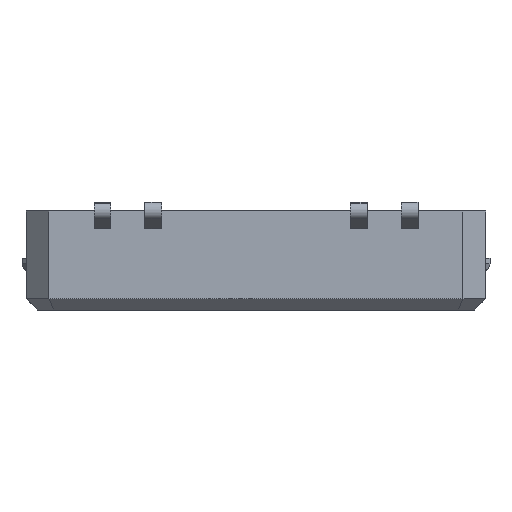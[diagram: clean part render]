
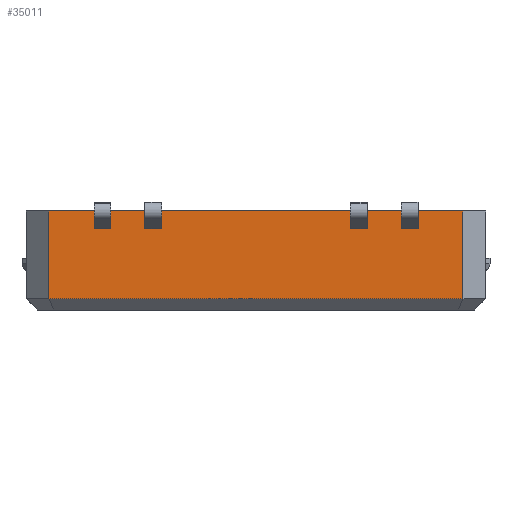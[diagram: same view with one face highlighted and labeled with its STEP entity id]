
A CAD part, front view. The second image highlights one B-rep face of the part: STEP entity #35011.
In plain terms, the highlighted planar face has unit normal (0, -1, 0).
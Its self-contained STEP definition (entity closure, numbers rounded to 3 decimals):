
#1650=FACE_OUTER_BOUND($,#3627,.T.);
#3627=EDGE_LOOP($,(#27391,#27392,#27393,#27394,#27395,#27396,#27397,#27398,
#27399,#27400,#27401,#27402,#27403,#27404,#27405,#27406,#27407,#27408,#27409,
#27410));
#4617=LINE($,#46001,#9317);
#4622=LINE($,#46020,#9322);
#4623=LINE($,#46025,#9323);
#4624=LINE($,#46034,#9324);
#4631=LINE($,#46054,#9331);
#4633=LINE($,#46059,#9333);
#4643=LINE($,#46085,#9343);
#4648=LINE($,#46104,#9348);
#4649=LINE($,#46109,#9349);
#4650=LINE($,#46118,#9350);
#4657=LINE($,#46138,#9357);
#4659=LINE($,#46143,#9359);
#5217=LINE($,#51165,#9917);
#7016=LINE($,#54824,#11716);
#7017=LINE($,#54825,#11717);
#7018=LINE($,#54827,#11718);
#7019=LINE($,#54828,#11719);
#7020=LINE($,#54829,#11720);
#7021=LINE($,#54830,#11721);
#7022=LINE($,#54831,#11722);
#9317=VECTOR($,#37719,0.75);
#9322=VECTOR($,#37742,0.8);
#9323=VECTOR($,#37749,0.8);
#9324=VECTOR($,#37758,0.8);
#9331=VECTOR($,#37777,0.8);
#9333=VECTOR($,#37783,0.75);
#9343=VECTOR($,#37805,0.75);
#9348=VECTOR($,#37828,0.8);
#9349=VECTOR($,#37835,0.8);
#9350=VECTOR($,#37844,0.8);
#9357=VECTOR($,#37863,0.8);
#9359=VECTOR($,#37869,0.75);
#9917=VECTOR($,#38659,18.4);
#11716=VECTOR($,#41888,2.);
#11717=VECTOR($,#41889,3.9);
#11718=VECTOR($,#41890,3.9);
#11719=VECTOR($,#41891,2.);
#11720=VECTOR($,#41892,1.5);
#11721=VECTOR($,#41893,8.4);
#11722=VECTOR($,#41894,1.5);
#14017=VERTEX_POINT($,#45997);
#14018=VERTEX_POINT($,#45999);
#14021=VERTEX_POINT($,#46012);
#14022=VERTEX_POINT($,#46014);
#14027=VERTEX_POINT($,#46032);
#14028=VERTEX_POINT($,#46033);
#14032=VERTEX_POINT($,#46043);
#14035=VERTEX_POINT($,#46053);
#14045=VERTEX_POINT($,#46081);
#14046=VERTEX_POINT($,#46083);
#14049=VERTEX_POINT($,#46096);
#14050=VERTEX_POINT($,#46098);
#14055=VERTEX_POINT($,#46116);
#14056=VERTEX_POINT($,#46117);
#14060=VERTEX_POINT($,#46127);
#14063=VERTEX_POINT($,#46137);
#14661=VERTEX_POINT($,#51162);
#14662=VERTEX_POINT($,#51164);
#15807=VERTEX_POINT($,#54823);
#15808=VERTEX_POINT($,#54826);
#17321=EDGE_CURVE($,#14017,#14018,#4617,.T.);
#17331=EDGE_CURVE($,#14022,#14017,#4622,.T.);
#17333=EDGE_CURVE($,#14018,#14021,#4623,.T.);
#17336=EDGE_CURVE($,#14027,#14028,#4624,.T.);
#17346=EDGE_CURVE($,#14035,#14032,#4631,.T.);
#17349=EDGE_CURVE($,#14028,#14035,#4633,.T.);
#17361=EDGE_CURVE($,#14045,#14046,#4643,.T.);
#17371=EDGE_CURVE($,#14050,#14045,#4648,.T.);
#17373=EDGE_CURVE($,#14046,#14049,#4649,.T.);
#17376=EDGE_CURVE($,#14055,#14056,#4650,.T.);
#17386=EDGE_CURVE($,#14063,#14060,#4657,.T.);
#17389=EDGE_CURVE($,#14056,#14063,#4659,.T.);
#18197=EDGE_CURVE($,#14661,#14662,#5217,.T.);
#19996=EDGE_CURVE($,#15807,#14021,#7016,.F.);
#19997=EDGE_CURVE($,#14662,#15807,#7017,.T.);
#19998=EDGE_CURVE($,#15808,#14661,#7018,.T.);
#19999=EDGE_CURVE($,#14055,#15808,#7019,.F.);
#20000=EDGE_CURVE($,#14050,#14060,#7020,.F.);
#20001=EDGE_CURVE($,#14027,#14049,#7021,.F.);
#20002=EDGE_CURVE($,#14022,#14032,#7022,.F.);
#27391=ORIENTED_EDGE($,*,*,#17333,.T.);
#27392=ORIENTED_EDGE($,*,*,#19996,.F.);
#27393=ORIENTED_EDGE($,*,*,#19997,.F.);
#27394=ORIENTED_EDGE($,*,*,#18197,.F.);
#27395=ORIENTED_EDGE($,*,*,#19998,.F.);
#27396=ORIENTED_EDGE($,*,*,#19999,.F.);
#27397=ORIENTED_EDGE($,*,*,#17376,.T.);
#27398=ORIENTED_EDGE($,*,*,#17389,.T.);
#27399=ORIENTED_EDGE($,*,*,#17386,.T.);
#27400=ORIENTED_EDGE($,*,*,#20000,.F.);
#27401=ORIENTED_EDGE($,*,*,#17371,.T.);
#27402=ORIENTED_EDGE($,*,*,#17361,.T.);
#27403=ORIENTED_EDGE($,*,*,#17373,.T.);
#27404=ORIENTED_EDGE($,*,*,#20001,.F.);
#27405=ORIENTED_EDGE($,*,*,#17336,.T.);
#27406=ORIENTED_EDGE($,*,*,#17349,.T.);
#27407=ORIENTED_EDGE($,*,*,#17346,.T.);
#27408=ORIENTED_EDGE($,*,*,#20002,.F.);
#27409=ORIENTED_EDGE($,*,*,#17331,.T.);
#27410=ORIENTED_EDGE($,*,*,#17321,.T.);
#33144=PLANE($,#36800);
#35011=ADVANCED_FACE($,(#1650),#33144,.F.);
#36800=AXIS2_PLACEMENT_3D($,#54822,#41886,#41887);
#37719=DIRECTION($,(-1.,0.,0.));
#37742=DIRECTION($,(0.,0.,-1.));
#37749=DIRECTION($,(0.,0.,1.));
#37758=DIRECTION($,(0.,0.,-1.));
#37777=DIRECTION($,(0.,0.,1.));
#37783=DIRECTION($,(-1.,0.,0.));
#37805=DIRECTION($,(-1.,0.,0.));
#37828=DIRECTION($,(0.,0.,-1.));
#37835=DIRECTION($,(0.,0.,1.));
#37844=DIRECTION($,(0.,0.,-1.));
#37863=DIRECTION($,(0.,0.,1.));
#37869=DIRECTION($,(-1.,0.,0.));
#38659=DIRECTION($,(-1.,0.,0.));
#41886=DIRECTION('center_axis',(0.,1.,0.));
#41887=DIRECTION('ref_axis',(0.,0.,1.));
#41888=DIRECTION($,(-1.,0.,0.));
#41889=DIRECTION($,(0.,0.,1.));
#41890=DIRECTION($,(0.,0.,-1.));
#41891=DIRECTION($,(-1.,0.,0.));
#41892=DIRECTION($,(-1.,0.,0.));
#41893=DIRECTION($,(-1.,0.,0.));
#41894=DIRECTION($,(-1.,0.,0.));
#45997=CARTESIAN_POINT('',(-16.65,0.,3.6));
#45999=CARTESIAN_POINT('',(-17.4,0.,3.6));
#46001=CARTESIAN_POINT($,(-12.95,0.,3.6));
#46012=CARTESIAN_POINT('',(-17.4,0.,4.4));
#46014=CARTESIAN_POINT('',(-16.65,0.,4.4));
#46020=CARTESIAN_POINT($,(-16.65,0.,3.45));
#46025=CARTESIAN_POINT($,(-17.4,0.,3.45));
#46032=CARTESIAN_POINT('',(-14.4,0.,4.4));
#46033=CARTESIAN_POINT('',(-14.4,0.,3.6));
#46034=CARTESIAN_POINT($,(-14.4,0.,2.95));
#46043=CARTESIAN_POINT('',(-15.15,0.,4.4));
#46053=CARTESIAN_POINT('',(-15.15,0.,3.6));
#46054=CARTESIAN_POINT($,(-15.15,0.,3.45));
#46059=CARTESIAN_POINT($,(-12.95,0.,3.6));
#46081=CARTESIAN_POINT('',(-5.25,0.,3.6));
#46083=CARTESIAN_POINT('',(-6.,0.,3.6));
#46085=CARTESIAN_POINT($,(-7.25,0.,3.6));
#46096=CARTESIAN_POINT('',(-6.,0.,4.4));
#46098=CARTESIAN_POINT('',(-5.25,0.,4.4));
#46104=CARTESIAN_POINT($,(-5.25,0.,3.45));
#46109=CARTESIAN_POINT($,(-6.,0.,3.45));
#46116=CARTESIAN_POINT('',(-3.,0.,4.4));
#46117=CARTESIAN_POINT('',(-3.,0.,3.6));
#46118=CARTESIAN_POINT($,(-3.,0.,2.95));
#46127=CARTESIAN_POINT('',(-3.75,0.,4.4));
#46137=CARTESIAN_POINT('',(-3.75,0.,3.6));
#46138=CARTESIAN_POINT($,(-3.75,0.,3.45));
#46143=CARTESIAN_POINT($,(-7.25,0.,3.6));
#51162=CARTESIAN_POINT('',(-1.,0.,0.5));
#51164=CARTESIAN_POINT('',(-19.4,0.,0.5));
#51165=CARTESIAN_POINT($,(-10.,0.,0.5));
#54822=CARTESIAN_POINT('Origin',(-10.,0.,2.5));
#54823=CARTESIAN_POINT('',(-19.4,0.,4.4));
#54824=CARTESIAN_POINT($,(-10.,0.,4.4));
#54825=CARTESIAN_POINT($,(-19.4,0.,2.5));
#54826=CARTESIAN_POINT('',(-1.,0.,4.4));
#54827=CARTESIAN_POINT($,(-1.,0.,2.5));
#54828=CARTESIAN_POINT($,(-10.,0.,4.4));
#54829=CARTESIAN_POINT($,(-10.,0.,4.4));
#54830=CARTESIAN_POINT($,(-10.,0.,4.4));
#54831=CARTESIAN_POINT($,(-10.,0.,4.4));
